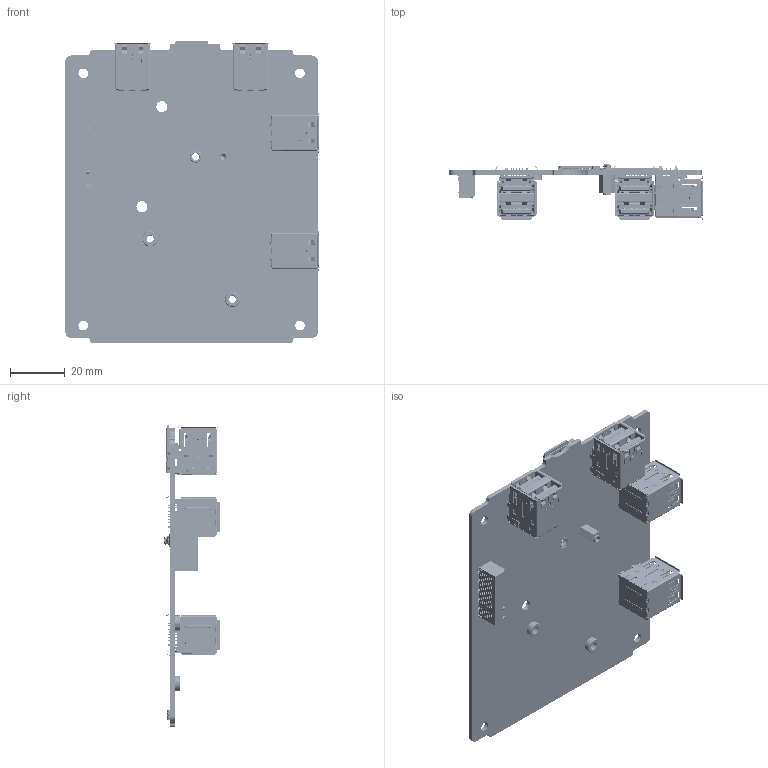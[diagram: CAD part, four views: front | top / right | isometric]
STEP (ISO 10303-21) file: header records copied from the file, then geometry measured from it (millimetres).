
FILE_DESCRIPTION((''),'2;1');
FILE_NAME('D317_USB_BOARD_ASSY_ASM','2026-07-03T16:13:00',('A004125'),(''),'CREO PARAMETRIC BY PTC INC, 2016390','CREO PARAMETRIC BY PTC INC, 2016390','');
FILE_SCHEMA(('CONFIG_CONTROL_DESIGN','SHAPE_APPEARANCE_LAYERS_GROUPS'));
Products named in the file (15): D317_USB_PCB; D317_USB_PCB_TOP_LIMIT; D317_USB_PCB_BTM_LIMIT; D317_USB_PCB_ASSY_ASM; 104AAAAAAAC3_SMT_NUT_M3; 066A20455AV2; 062AFG027ANK; D317_USB_PCBA_TOP_COMPONENT_ASM; 061ACU3B-BBD; 062A2E0BCANF_M-2_KEY-B; 062A2E0BCANF_M-2_KEY-B_ASSY_ASM; 104AAAAAAACH_NUT_M3-L2; D317_USB_PCBA_BTM_COMPONENT_ASM; STANDOFF_M2_L6-6_104-ADK; D317_USB_BOARD_ASSY_ASM
Assembly tree (19 placements, depth 4):
  D317_USB_BOARD_ASSY_ASM
    D317_USB_PCB_ASSY_ASM
      D317_USB_PCB
      D317_USB_PCB_TOP_LIMIT
      D317_USB_PCB_BTM_LIMIT
    D317_USB_PCBA_TOP_COMPONENT_ASM
      104AAAAAAAC3_SMT_NUT_M3  x2
      066A20455AV2
      062AFG027ANK
    D317_USB_PCBA_BTM_COMPONENT_ASM
      061ACU3B-BBD  x4
      062A2E0BCANF_M-2_KEY-B_ASSY_ASM
        062A2E0BCANF_M-2_KEY-B
      104AAAAAAACH_NUT_M3-L2  x2
    STANDOFF_M2_L6-6_104-ADK
Bounding box: 92.3 x 20.54 x 110.45 mm (x, y, z)
Volume: 17053.7 mm3; surface area: 49832.5 mm2
Topology: 38 solids, 56 shells, 18759 faces, 57177 edges, 37615 vertices
Faces by surface type: plane 13117, cylinder 5142, bspline 257, torus 125, extrusion 64, cone 34, sphere 18, revolution 2
Entity records: 297851 total; most frequent: CARTESIAN_POINT 58733, ORIENTED_EDGE 47064, DIRECTION 42981, EDGE_CURVE 23943, VECTOR 19085, LINE 19069, VERTEX_POINT 15884, AXIS2_PLACEMENT_3D 11947
